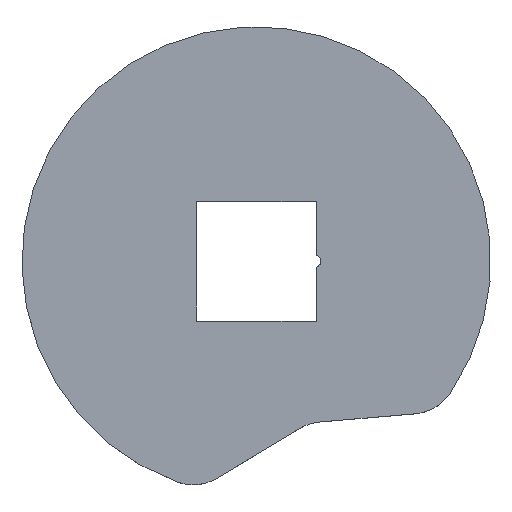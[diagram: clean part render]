
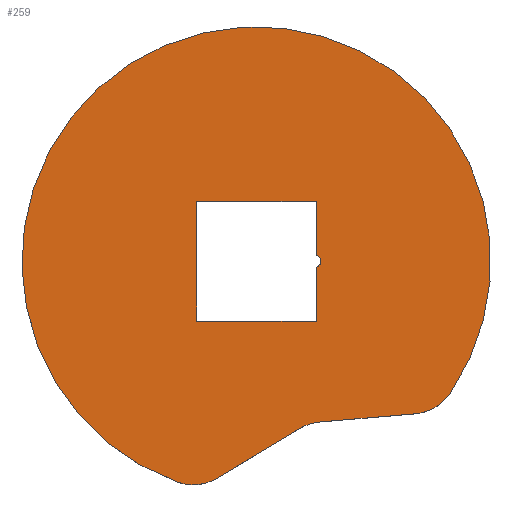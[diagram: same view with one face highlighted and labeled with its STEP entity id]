
A CAD part, top view. The second image highlights one B-rep face of the part: STEP entity #259.
In plain terms, the highlighted planar face has unit normal (0, 0, 1).
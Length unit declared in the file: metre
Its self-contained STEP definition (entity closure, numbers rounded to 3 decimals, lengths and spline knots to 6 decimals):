
#13=CIRCLE('',#283,0.004);
#15=CIRCLE('',#286,0.02);
#17=CIRCLE('',#289,0.004);
#19=CIRCLE('',#293,0.004);
#20=CIRCLE('',#295,0.0005);
#55=ORIENTED_EDGE('',*,*,#121,.F.);
#56=ORIENTED_EDGE('',*,*,#102,.T.);
#57=ORIENTED_EDGE('',*,*,#122,.F.);
#58=ORIENTED_EDGE('',*,*,#123,.F.);
#59=ORIENTED_EDGE('',*,*,#124,.T.);
#60=ORIENTED_EDGE('',*,*,#125,.T.);
#61=ORIENTED_EDGE('',*,*,#105,.F.);
#62=ORIENTED_EDGE('',*,*,#109,.T.);
#63=ORIENTED_EDGE('',*,*,#112,.T.);
#64=ORIENTED_EDGE('',*,*,#115,.T.);
#65=ORIENTED_EDGE('',*,*,#118,.F.);
#66=ORIENTED_EDGE('',*,*,#120,.F.);
#102=EDGE_CURVE('',#136,#138,#162,.T.);
#105=EDGE_CURVE('',#141,#142,#165,.T.);
#109=EDGE_CURVE('',#141,#144,#13,.T.);
#112=EDGE_CURVE('',#144,#146,#15,.T.);
#115=EDGE_CURVE('',#146,#148,#17,.T.);
#118=EDGE_CURVE('',#150,#148,#172,.T.);
#120=EDGE_CURVE('',#142,#150,#19,.T.);
#121=EDGE_CURVE('',#136,#151,#20,.T.);
#122=EDGE_CURVE('',#152,#138,#173,.T.);
#123=EDGE_CURVE('',#153,#152,#174,.T.);
#124=EDGE_CURVE('',#153,#154,#175,.T.);
#125=EDGE_CURVE('',#154,#151,#176,.T.);
#136=VERTEX_POINT('',#383);
#138=VERTEX_POINT('',#387);
#141=VERTEX_POINT('',#394);
#142=VERTEX_POINT('',#396);
#144=VERTEX_POINT('',#402);
#146=VERTEX_POINT('',#408);
#148=VERTEX_POINT('',#414);
#150=VERTEX_POINT('',#420);
#151=VERTEX_POINT('',#427);
#152=VERTEX_POINT('',#429);
#153=VERTEX_POINT('',#431);
#154=VERTEX_POINT('',#433);
#162=LINE('',#388,#188);
#165=LINE('',#395,#191);
#172=LINE('',#421,#198);
#173=LINE('',#428,#199);
#174=LINE('',#430,#200);
#175=LINE('',#432,#201);
#176=LINE('',#434,#202);
#188=VECTOR('',#310,1.);
#191=VECTOR('',#315,1.);
#198=VECTOR('',#342,1.);
#199=VECTOR('',#353,1.);
#200=VECTOR('',#354,1.);
#201=VECTOR('',#355,1.);
#202=VECTOR('',#356,1.);
#218=EDGE_LOOP('',(#55,#56,#57,#58,#59,#60));
#219=EDGE_LOOP('',(#61,#62,#63,#64,#65,#66));
#234=FACE_BOUND('',#218,.T.);
#235=FACE_BOUND('',#219,.T.);
#246=PLANE('',#294);
#259=ADVANCED_FACE('',(#234,#235),#246,.T.);
#283=AXIS2_PLACEMENT_3D('',#403,#322,#323);
#286=AXIS2_PLACEMENT_3D('',#409,#329,#330);
#289=AXIS2_PLACEMENT_3D('',#415,#336,#337);
#293=AXIS2_PLACEMENT_3D('',#424,#347,#348);
#294=AXIS2_PLACEMENT_3D('',#425,#349,#350);
#295=AXIS2_PLACEMENT_3D('',#426,#351,#352);
#310=DIRECTION('',(0.,-1.,0.));
#315=DIRECTION('',(-0.996,-0.086,0.));
#322=DIRECTION('',(0.,0.,1.));
#323=DIRECTION('',(1.,0.,0.));
#329=DIRECTION('',(0.,0.,1.));
#330=DIRECTION('',(1.,0.,0.));
#336=DIRECTION('',(0.,0.,1.));
#337=DIRECTION('',(1.,0.,0.));
#342=DIRECTION('',(-0.857,-0.516,0.));
#347=DIRECTION('',(0.,0.,1.));
#348=DIRECTION('',(1.,0.,0.));
#349=DIRECTION('',(0.,0.,1.));
#350=DIRECTION('',(1.,0.,0.));
#351=DIRECTION('',(0.,0.,1.));
#352=DIRECTION('',(1.,0.,0.));
#353=DIRECTION('',(1.,0.,0.));
#354=DIRECTION('',(0.,-1.,0.));
#355=DIRECTION('',(1.,0.,0.));
#356=DIRECTION('',(0.,-1.,0.));
#383=CARTESIAN_POINT('',(0.0051,-0.00049,-0.016872));
#387=CARTESIAN_POINT('',(0.0051,-0.0051,-0.016872));
#388=CARTESIAN_POINT('',(0.0051,0.,-0.016872));
#394=CARTESIAN_POINT('',(0.013557,-0.013008,-0.016872));
#395=CARTESIAN_POINT('',(0.009482,-0.013359,-0.016872));
#396=CARTESIAN_POINT('',(0.005406,-0.013711,-0.016872));
#402=CARTESIAN_POINT('',(0.016517,-0.011278,-0.016872));
#403=CARTESIAN_POINT('',(0.013213,-0.009023,-0.016872));
#408=CARTESIAN_POINT('',(-0.006733,-0.018833,-0.016872));
#409=CARTESIAN_POINT('',(0.,0.,-0.016872));
#414=CARTESIAN_POINT('',(-0.003322,-0.018492,-0.016872));
#415=CARTESIAN_POINT('',(-0.005386,-0.015066,-0.016872));
#420=CARTESIAN_POINT('',(0.003685,-0.01427,-0.016872));
#421=CARTESIAN_POINT('',(0.000182,-0.016381,-0.016872));
#424=CARTESIAN_POINT('',(0.00575,-0.017696,-0.016872));
#425=CARTESIAN_POINT('',(0.,0.,-0.016872));
#426=CARTESIAN_POINT('',(0.005,0.,-0.016872));
#427=CARTESIAN_POINT('',(0.0051,0.00049,-0.016872));
#428=CARTESIAN_POINT('',(0.,-0.0051,-0.016872));
#429=CARTESIAN_POINT('',(-0.0051,-0.0051,-0.016872));
#430=CARTESIAN_POINT('',(-0.0051,0.,-0.016872));
#431=CARTESIAN_POINT('',(-0.0051,0.0051,-0.016872));
#432=CARTESIAN_POINT('',(0.,0.0051,-0.016872));
#433=CARTESIAN_POINT('',(0.0051,0.0051,-0.016872));
#434=CARTESIAN_POINT('',(0.0051,0.,-0.016872));
